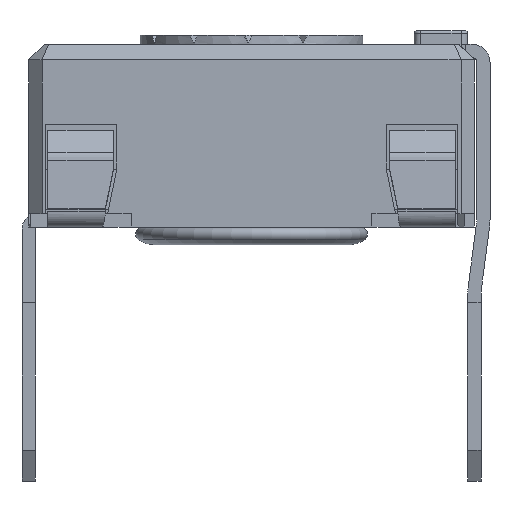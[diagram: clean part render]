
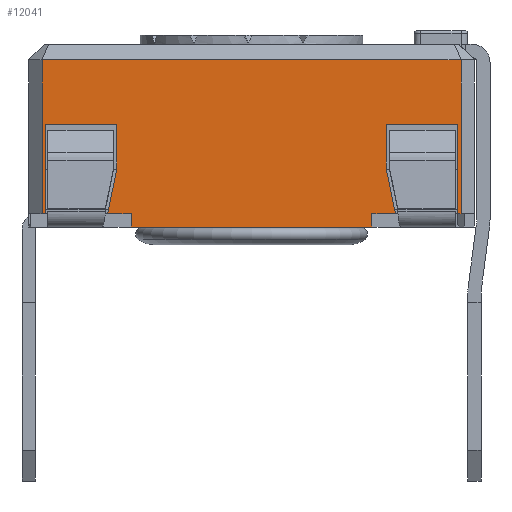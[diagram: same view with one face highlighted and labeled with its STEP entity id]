
A CAD part, left-side view. The second image highlights one B-rep face of the part: STEP entity #12041.
In plain terms, the highlighted planar face has unit normal (-1, 0, 0).
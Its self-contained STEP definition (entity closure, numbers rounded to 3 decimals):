
#945=FACE_OUTER_BOUND('',#1566,.T.);
#1566=EDGE_LOOP('',(#10051,#10052,#10053,#10054,#10055,#10056,#10057,#10058,
#10059,#10060,#10061,#10062,#10063,#10064,#10065,#10066,#10067,#10068));
#2409=LINE('',#17982,#3825);
#2440=LINE('',#18044,#3856);
#2446=LINE('',#18056,#3862);
#2467=LINE('',#18098,#3883);
#2635=LINE('',#18624,#4051);
#2678=LINE('',#18706,#4094);
#2681=LINE('',#18712,#4097);
#2826=LINE('',#19084,#4242);
#2828=LINE('',#19088,#4244);
#2832=LINE('',#19096,#4248);
#2835=LINE('',#19102,#4251);
#2842=LINE('',#19116,#4258);
#2844=LINE('',#19120,#4260);
#2850=LINE('',#19131,#4266);
#2851=LINE('',#19133,#4267);
#2852=LINE('',#19136,#4268);
#2853=LINE('',#19138,#4269);
#2854=LINE('',#19139,#4270);
#3825=VECTOR('',#14607,10.);
#3856=VECTOR('',#14642,10.);
#3862=VECTOR('',#14648,10.);
#3883=VECTOR('',#14671,10.);
#4051=VECTOR('',#15145,10.);
#4094=VECTOR('',#15220,10.);
#4097=VECTOR('',#15229,10.);
#4242=VECTOR('',#15590,10.);
#4244=VECTOR('',#15594,10.);
#4248=VECTOR('',#15600,10.);
#4251=VECTOR('',#15605,10.);
#4258=VECTOR('',#15620,10.);
#4260=VECTOR('',#15624,10.);
#4266=VECTOR('',#15636,10.);
#4267=VECTOR('',#15639,10.);
#4268=VECTOR('',#15642,10.);
#4269=VECTOR('',#15643,10.);
#4270=VECTOR('',#15644,10.);
#5131=VERTEX_POINT('',#17979);
#5132=VERTEX_POINT('',#17981);
#5160=VERTEX_POINT('',#18041);
#5161=VERTEX_POINT('',#18043);
#5166=VERTEX_POINT('',#18053);
#5167=VERTEX_POINT('',#18055);
#5186=VERTEX_POINT('',#18095);
#5187=VERTEX_POINT('',#18097);
#5337=VERTEX_POINT('',#18621);
#5338=VERTEX_POINT('',#18623);
#5456=VERTEX_POINT('',#19082);
#5457=VERTEX_POINT('',#19087);
#5460=VERTEX_POINT('',#19094);
#5462=VERTEX_POINT('',#19101);
#5465=VERTEX_POINT('',#19115);
#5466=VERTEX_POINT('',#19119);
#5469=VERTEX_POINT('',#19135);
#5470=VERTEX_POINT('',#19137);
#6510=EDGE_CURVE('',#5132,#5131,#2409,.T.);
#6541=EDGE_CURVE('',#5161,#5160,#2440,.T.);
#6547=EDGE_CURVE('',#5167,#5166,#2446,.T.);
#6568=EDGE_CURVE('',#5187,#5186,#2467,.T.);
#6813=EDGE_CURVE('',#5338,#5337,#2635,.T.);
#6856=EDGE_CURVE('',#5161,#5337,#2678,.T.);
#6859=EDGE_CURVE('',#5166,#5338,#2681,.T.);
#7040=EDGE_CURVE('',#5160,#5456,#2826,.T.);
#7042=EDGE_CURVE('',#5457,#5167,#2828,.T.);
#7046=EDGE_CURVE('',#5456,#5460,#2832,.T.);
#7049=EDGE_CURVE('',#5462,#5457,#2835,.T.);
#7056=EDGE_CURVE('',#5465,#5462,#2842,.T.);
#7058=EDGE_CURVE('',#5466,#5187,#2844,.T.);
#7064=EDGE_CURVE('',#5460,#5466,#2850,.T.);
#7065=EDGE_CURVE('',#5131,#5465,#2851,.T.);
#7066=EDGE_CURVE('',#5469,#5186,#2852,.T.);
#7067=EDGE_CURVE('',#5470,#5469,#2853,.T.);
#7068=EDGE_CURVE('',#5470,#5132,#2854,.T.);
#10051=ORIENTED_EDGE('',*,*,#7065,.T.);
#10052=ORIENTED_EDGE('',*,*,#7056,.T.);
#10053=ORIENTED_EDGE('',*,*,#7049,.T.);
#10054=ORIENTED_EDGE('',*,*,#7042,.T.);
#10055=ORIENTED_EDGE('',*,*,#6547,.T.);
#10056=ORIENTED_EDGE('',*,*,#6859,.T.);
#10057=ORIENTED_EDGE('',*,*,#6813,.T.);
#10058=ORIENTED_EDGE('',*,*,#6856,.F.);
#10059=ORIENTED_EDGE('',*,*,#6541,.T.);
#10060=ORIENTED_EDGE('',*,*,#7040,.T.);
#10061=ORIENTED_EDGE('',*,*,#7046,.T.);
#10062=ORIENTED_EDGE('',*,*,#7064,.T.);
#10063=ORIENTED_EDGE('',*,*,#7058,.T.);
#10064=ORIENTED_EDGE('',*,*,#6568,.T.);
#10065=ORIENTED_EDGE('',*,*,#7066,.F.);
#10066=ORIENTED_EDGE('',*,*,#7067,.F.);
#10067=ORIENTED_EDGE('',*,*,#7068,.T.);
#10068=ORIENTED_EDGE('',*,*,#6510,.T.);
#11236=PLANE('',#12917);
#12041=ADVANCED_FACE('',(#945),#11236,.T.);
#12917=AXIS2_PLACEMENT_3D('',#19134,#15640,#15641);
#14607=DIRECTION('',(0.,-1.,0.));
#14642=DIRECTION('',(0.,-1.,0.));
#14648=DIRECTION('',(0.,-1.,0.));
#14671=DIRECTION('',(0.,-1.,0.));
#15145=DIRECTION('',(0.,-1.,0.));
#15220=DIRECTION('',(0.,0.,-1.));
#15229=DIRECTION('',(0.,0.,-1.));
#15590=DIRECTION('',(0.,0.199,0.98));
#15594=DIRECTION('',(0.,0.199,-0.98));
#15600=DIRECTION('',(0.,0.,1.));
#15605=DIRECTION('',(0.,0.,-1.));
#15620=DIRECTION('',(0.,-1.,0.));
#15624=DIRECTION('',(0.,0.,-1.));
#15636=DIRECTION('',(0.,-1.,0.));
#15639=DIRECTION('',(0.,0.,1.));
#15640=DIRECTION('center_axis',(-1.,0.,0.));
#15641=DIRECTION('ref_axis',(0.,0.,1.));
#15642=DIRECTION('',(0.,0.,-1.));
#15643=DIRECTION('',(0.,-1.,0.));
#15644=DIRECTION('',(0.,0.,-1.));
#17979=CARTESIAN_POINT('',(-31.348,-8.365,-3.8));
#17981=CARTESIAN_POINT('',(-31.348,-8.29,-3.8));
#17982=CARTESIAN_POINT('',(-31.348,-17.69,-3.8));
#18041=CARTESIAN_POINT('',(-31.348,-16.219,-3.8));
#18043=CARTESIAN_POINT('',(-31.348,-15.69,-3.8));
#18044=CARTESIAN_POINT('',(-31.348,-9.762,-3.8));
#18053=CARTESIAN_POINT('',(-31.348,-10.29,-3.8));
#18055=CARTESIAN_POINT('',(-31.348,-9.762,-3.8));
#18056=CARTESIAN_POINT('',(-31.348,-9.762,-3.8));
#18095=CARTESIAN_POINT('',(-31.348,-17.69,-3.8));
#18097=CARTESIAN_POINT('',(-31.348,-17.615,-3.8));
#18098=CARTESIAN_POINT('',(-31.348,-17.69,-3.8));
#18621=CARTESIAN_POINT('',(-31.348,-15.69,-4.1));
#18623=CARTESIAN_POINT('',(-31.348,-10.29,-4.1));
#18624=CARTESIAN_POINT('',(-31.348,-16.219,-4.1));
#18706=CARTESIAN_POINT('',(-31.348,-15.69,-3.8));
#18712=CARTESIAN_POINT('',(-31.348,-10.29,-3.8));
#19082=CARTESIAN_POINT('',(-31.348,-16.015,-2.8));
#19084=CARTESIAN_POINT('',(-31.348,-16.219,-3.8));
#19087=CARTESIAN_POINT('',(-31.348,-9.965,-2.8));
#19088=CARTESIAN_POINT('',(-31.348,-9.965,-2.8));
#19094=CARTESIAN_POINT('',(-31.348,-16.015,-1.8));
#19096=CARTESIAN_POINT('',(-31.348,-16.015,-2.8));
#19101=CARTESIAN_POINT('',(-31.348,-9.965,-1.8));
#19102=CARTESIAN_POINT('',(-31.348,-9.965,-1.8));
#19115=CARTESIAN_POINT('',(-31.348,-8.365,-1.8));
#19116=CARTESIAN_POINT('',(-31.348,-10.64,-1.8));
#19119=CARTESIAN_POINT('',(-31.348,-17.615,-1.8));
#19120=CARTESIAN_POINT('',(-31.348,-17.615,-1.368));
#19131=CARTESIAN_POINT('',(-31.348,-10.64,-1.8));
#19133=CARTESIAN_POINT('',(-31.348,-8.365,-1.368));
#19134=CARTESIAN_POINT('Origin',(-31.348,-8.29,0.));
#19135=CARTESIAN_POINT('',(-31.348,-17.69,-0.35));
#19136=CARTESIAN_POINT('',(-31.348,-17.69,0.));
#19137=CARTESIAN_POINT('',(-31.348,-8.29,-0.35));
#19138=CARTESIAN_POINT('',(-31.348,-10.64,-0.35));
#19139=CARTESIAN_POINT('',(-31.348,-8.29,0.));
